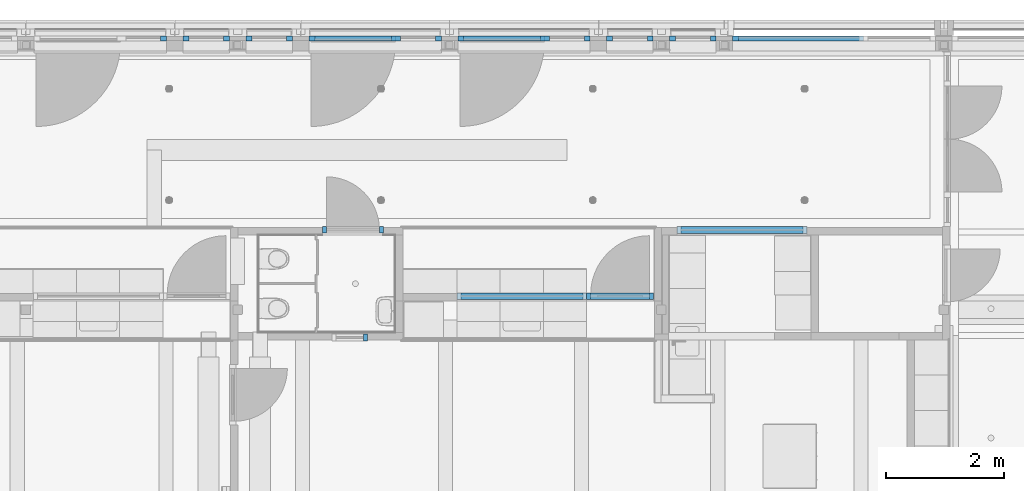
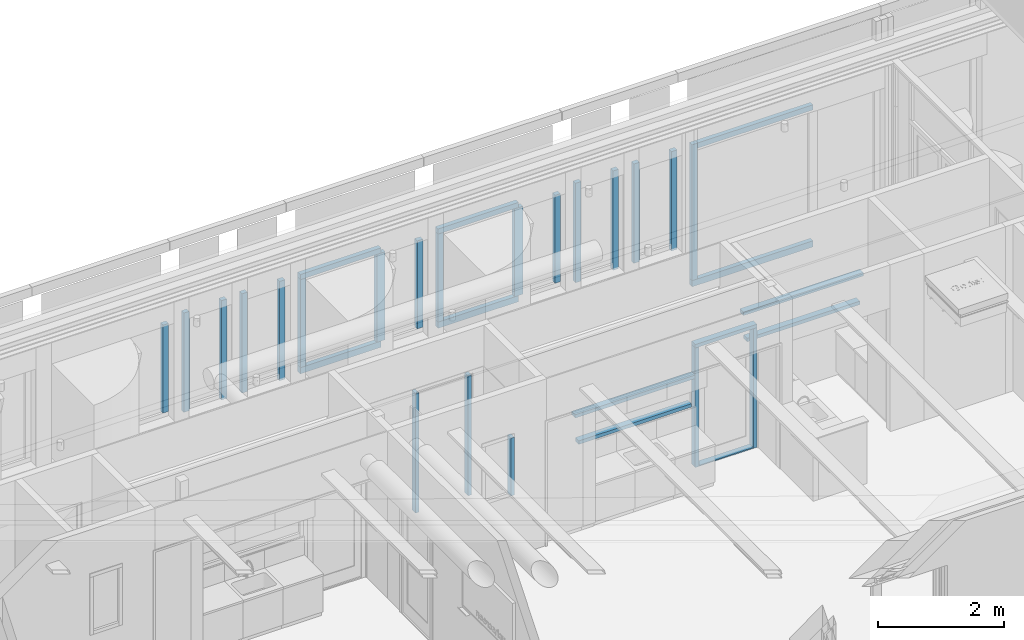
# One storey, part 20 of 128: 33 members, 13 elements without a shape of their own.
"""IFC2X3 building model written with IfcOpenShell, lengths in millimetres."""

from ifc_helpers import new_model, entity, si_unit, converted_unit, derived_unit, direction, frame, frame_2d, origin, origin_2d_with_axis, place, context, subcontext, project, spatial, rectangle, extrude, source, transform, mapped, material, type_object, type_shapes, element, aggregate, save


model = new_model("IFC2X3")

# Units and contexts
model_context = context("Model", 3, precision=0.01, world=origin(), true_north=direction((6.123031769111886e-17, 1.0)))
body_context = subcontext(model_context, "Body", "Model", "MODEL_VIEW")
ifc_project = project(units=[si_unit("LENGTHUNIT", "METRE", prefix="MILLI"), si_unit("AREAUNIT", "SQUARE_METRE"), si_unit("VOLUMEUNIT", "CUBIC_METRE"), converted_unit("PLANEANGLEUNIT", "DEGREE", entity("IfcRatioMeasure", 0.017453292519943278), si_unit("PLANEANGLEUNIT", "RADIAN"), dimensions=[0, 0, 0, 0, 0, 0, 0]), si_unit("MASSUNIT", "GRAM", prefix="KILO"), derived_unit("MASSDENSITYUNIT", [(si_unit("MASSUNIT", "GRAM", prefix="KILO"), 1), (si_unit("LENGTHUNIT", "METRE"), -3)]), derived_unit("IONCONCENTRATIONUNIT", [(si_unit("MASSUNIT", "GRAM", prefix="KILO"), 1), (si_unit("LENGTHUNIT", "METRE"), -3)]), derived_unit("MOMENTOFINERTIAUNIT", [(si_unit("LENGTHUNIT", "METRE"), 4)]), si_unit("TIMEUNIT", "SECOND"), si_unit("FREQUENCYUNIT", "HERTZ"), si_unit("THERMODYNAMICTEMPERATUREUNIT", "DEGREE_CELSIUS"), derived_unit("THERMALTRANSMITTANCEUNIT", [(si_unit("MASSUNIT", "GRAM", prefix="KILO"), 1), (si_unit("THERMODYNAMICTEMPERATUREUNIT", "KELVIN"), -1), (si_unit("TIMEUNIT", "SECOND"), -3)]), derived_unit("THERMALCONDUCTANCEUNIT", [(si_unit("MASSUNIT", "GRAM", prefix="KILO"), 1), (si_unit("THERMODYNAMICTEMPERATUREUNIT", "KELVIN"), -1), (si_unit("TIMEUNIT", "SECOND"), -3), (si_unit("LENGTHUNIT", "METRE"), 1)]), derived_unit("VOLUMETRICFLOWRATEUNIT", [(si_unit("LENGTHUNIT", "METRE"), 3), (si_unit("TIMEUNIT", "SECOND"), -1)]), derived_unit("MASSFLOWRATEUNIT", [(si_unit("MASSUNIT", "GRAM", prefix="KILO"), 1), (si_unit("TIMEUNIT", "SECOND"), -1)]), derived_unit("ROTATIONALFREQUENCYUNIT", [(si_unit("TIMEUNIT", "SECOND"), -1)]), si_unit("ELECTRICCURRENTUNIT", "AMPERE"), si_unit("ELECTRICVOLTAGEUNIT", "VOLT"), si_unit("POWERUNIT", "WATT"), si_unit("FORCEUNIT", "NEWTON", prefix="KILO"), si_unit("ILLUMINANCEUNIT", "LUX"), si_unit("LUMINOUSFLUXUNIT", "LUMEN"), si_unit("LUMINOUSINTENSITYUNIT", "CANDELA"), derived_unit("USERDEFINED", [(si_unit("MASSUNIT", "GRAM", prefix="KILO"), -1), (si_unit("LENGTHUNIT", "METRE"), -2), (si_unit("TIMEUNIT", "SECOND"), 3), (si_unit("LUMINOUSFLUXUNIT", "LUMEN"), 1)]), derived_unit("USERDEFINED", [(si_unit("MASSUNIT", "GRAM", prefix="KILO"), 1), (si_unit("TIMEUNIT", "SECOND"), -3), (si_unit("LENGTHUNIT", "METRE"), 3), (si_unit("ELECTRICCURRENTUNIT", "AMPERE"), -2)]), derived_unit("SOUNDPOWERUNIT", [(si_unit("MASSUNIT", "GRAM", prefix="KILO"), 1), (si_unit("TIMEUNIT", "SECOND"), -3), (si_unit("LENGTHUNIT", "METRE"), 2)]), derived_unit("SOUNDPRESSUREUNIT", [(si_unit("MASSUNIT", "GRAM", prefix="KILO"), 1), (si_unit("LENGTHUNIT", "METRE"), -1), (si_unit("TIMEUNIT", "SECOND"), -2)]), derived_unit("LINEARVELOCITYUNIT", [(si_unit("LENGTHUNIT", "METRE"), 1), (si_unit("TIMEUNIT", "SECOND"), -1)]), si_unit("PRESSUREUNIT", "PASCAL"), derived_unit("USERDEFINED", [(si_unit("MASSUNIT", "GRAM", prefix="KILO"), 1), (si_unit("LENGTHUNIT", "METRE"), -2), (si_unit("TIMEUNIT", "SECOND"), -2)]), derived_unit("LINEARFORCEUNIT", [(si_unit("MASSUNIT", "GRAM", prefix="KILO"), 1), (si_unit("TIMEUNIT", "SECOND"), -2)]), derived_unit("PLANARFORCEUNIT", [(si_unit("MASSUNIT", "GRAM", prefix="KILO"), 1), (si_unit("LENGTHUNIT", "METRE"), -1), (si_unit("TIMEUNIT", "SECOND"), -2)]), derived_unit("SPECIFICHEATCAPACITYUNIT", [(si_unit("THERMODYNAMICTEMPERATUREUNIT", "KELVIN"), -1), (si_unit("LENGTHUNIT", "METRE"), 2), (si_unit("TIMEUNIT", "SECOND"), -2)]), derived_unit("HEATINGVALUEUNIT", [(si_unit("LENGTHUNIT", "METRE"), 2), (si_unit("TIMEUNIT", "SECOND"), -2)]), derived_unit("VAPORPERMEABILITYUNIT", [(si_unit("LENGTHUNIT", "METRE"), -1), (si_unit("TIMEUNIT", "SECOND"), 1)]), derived_unit("DYNAMICVISCOSITYUNIT", [(si_unit("MASSUNIT", "GRAM", prefix="KILO"), 1), (si_unit("TIMEUNIT", "SECOND"), -1), (si_unit("LENGTHUNIT", "METRE"), -1)]), derived_unit("THERMALEXPANSIONCOEFFICIENTUNIT", [(si_unit("THERMODYNAMICTEMPERATUREUNIT", "KELVIN"), -1)]), derived_unit("MODULUSOFELASTICITYUNIT", [(si_unit("MASSUNIT", "GRAM", prefix="KILO"), 1), (si_unit("LENGTHUNIT", "METRE"), -1), (si_unit("TIMEUNIT", "SECOND"), -2)]), derived_unit("ISOTHERMALMOISTURECAPACITYUNIT", [(si_unit("LENGTHUNIT", "METRE"), 3), (si_unit("MASSUNIT", "GRAM", prefix="KILO"), -1)]), derived_unit("MOISTUREDIFFUSIVITYUNIT", [(si_unit("TIMEUNIT", "SECOND"), -1), (si_unit("LENGTHUNIT", "METRE"), 2)])], contexts=[model_context])

# Site, building, storey
site_placement = place(None, frame((0.0, 300.0, 0.0)))
site = spatial("IfcSite", under=ifc_project, at=site_placement, Name="<Kadastrale nummers>", CompositionType="ELEMENT")
building_placement = place(site_placement, origin())
building = spatial("IfcBuilding", under=site, at=building_placement, CompositionType="ELEMENT")
storey_placement = place(building_placement, frame((0.0, 0.0, 3560.0000331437)))
storey = spatial("IfcBuildingStorey", under=building, at=storey_placement, Name="01 eerste verdieping", CompositionType="ELEMENT", Elevation=3560.0000331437)

# Curtain wall, members
curtain_wall_type_1 = type_object("IfcCurtainWallType", Name="Curtain Wall:Merk H09", PredefinedType="NOTDEFINED")
curtain_wall_1_placement = place(storey_placement, frame((0.0, 0.0, -3560.0000331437)))
curtain_wall_1 = element("IfcCurtainWall", 1, at=curtain_wall_1_placement, inside=storey, type_object=curtain_wall_type_1, Name="Curtain Wall:Merk H09", ObjectType="Curtain Wall:Merk H09")
ifc_material_1 = material(Name="ISR_HPL")
member_type_1 = type_object("IfcMemberType", Name="Rectangular Mullion:31_CWM_067x114", PredefinedType="MULLION", material=ifc_material_1)
shared_shape_1 = source(origin(), body_context, "Body", "SweptSolid", [
    extrude(rectangle(XDim=113.99999999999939, YDim=67.0, at=origin_2d_with_axis()), frame((-33.5, -57.0, -2323.0), z_axis=(0.0, 0.0, 1.0), x_axis=(0.0, -1.0, 0.0)), (0.0, 0.0, 1.0), 2323.0),
])
type_shapes(member_type_1, [shared_shape_1])
member_1_placement = place(curtain_wall_1_placement, frame((31665.0, 45476.0, 3650.0000350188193), z_axis=(0.0, 0.0, -1.0), x_axis=(1.0, 0.0, 0.0)))
member_1 = element("IfcMember", 2, at=member_1_placement, type_object=member_type_1, material=ifc_material_1, Name="Rectangular Mullion:31_CWM_067x114", ObjectType="Rectangular Mullion:31_CWM_067x114", context=body_context, shape_type="MappedRepresentation", body=[
    mapped(shared_shape_1, transform((0.0, 0.0, 0.0), scale=1.0)),
])
member_type_2 = type_object("IfcMemberType", Name="Rectangular Mullion:31_CWM_067x114", PredefinedType="MULLION", material=ifc_material_1)
shared_shape_2 = source(origin(), body_context, "Body", "SweptSolid", [
    extrude(rectangle(XDim=113.9999999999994, YDim=67.0, at=frame_2d((1.0658141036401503e-14, 0.0), x_axis=(1.0, 0.0))), frame((-33.5, -57.0, -2323.0), z_axis=(0.0, 0.0, 1.0), x_axis=(0.0, -1.0, 0.0)), (0.0, 0.0, 1.0), 2323.0),
])
type_shapes(member_type_2, [shared_shape_2])
member_2_placement = place(curtain_wall_1_placement, frame((30531.0, 45476.0, 5973.0000331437), z_axis=(0.0, 0.0, 1.0), x_axis=(-1.0, 0.0, 0.0)))
member_2 = element("IfcMember", 3, at=member_2_placement, type_object=member_type_2, material=ifc_material_1, Name="Rectangular Mullion:31_CWM_067x114", ObjectType="Rectangular Mullion:31_CWM_067x114", context=body_context, shape_type="MappedRepresentation", body=[
    mapped(shared_shape_2, transform((0.0, 0.0, 0.0), scale=1.0)),
])

curtain_wall_type_2 = type_object("IfcCurtainWallType", Name="Curtain Wall:Merk H01", PredefinedType="NOTDEFINED")
curtain_wall_2_placement = place(storey_placement, frame((0.0, 0.0, -3560.0000331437)))
curtain_wall_2 = element("IfcCurtainWall", 4, at=curtain_wall_2_placement, inside=storey, type_object=curtain_wall_type_2, Name="Curtain Wall:Merk H01", ObjectType="Curtain Wall:Merk H01")
member_type_3 = type_object("IfcMemberType", Name="Rectangular Mullion:31_CWM_067x114", PredefinedType="MULLION", material=ifc_material_1)
shared_shape_3 = source(origin(), body_context, "Body", "SweptSolid", [
    extrude(rectangle(XDim=113.99999999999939, YDim=67.0, at=origin_2d_with_axis()), frame((-33.5, 57.0, -2323.0), z_axis=(0.0, 0.0, 1.0), x_axis=(0.0, -1.0, 0.0)), (0.0, 0.0, 1.0), 2323.0),
])
type_shapes(member_type_3, [shared_shape_3])
member_3_placement = place(curtain_wall_2_placement, frame((26041.001376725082, 46606.0, 3650.00003501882), z_axis=(0.0, 0.0, -1.0), x_axis=(-1.0, 0.0, 0.0)))
member_3 = element("IfcMember", 5, at=member_3_placement, type_object=member_type_3, material=ifc_material_1, Name="Rectangular Mullion:31_CWM_067x114", ObjectType="Rectangular Mullion:31_CWM_067x114", context=body_context, shape_type="MappedRepresentation", body=[
    mapped(shared_shape_3, transform((0.0, 0.0, 0.0), scale=1.0)),
])
member_type_4 = type_object("IfcMemberType", Name="Rectangular Mullion:31_CWM_067x114", PredefinedType="MULLION", material=ifc_material_1)
shared_shape_4 = source(origin(), body_context, "Body", "SweptSolid", [
    extrude(rectangle(XDim=113.99999999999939, YDim=67.0, at=origin_2d_with_axis()), frame((-33.5, 57.0, -2323.0), z_axis=(0.0, 0.0, 1.0), x_axis=(0.0, -1.0, 0.0)), (0.0, 0.0, 1.0), 2323.0),
])
type_shapes(member_type_4, [shared_shape_4])
member_4_placement = place(curtain_wall_2_placement, frame((27075.001376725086, 46606.0, 5973.0000331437)))
member_4 = element("IfcMember", 6, at=member_4_placement, type_object=member_type_4, material=ifc_material_1, Name="Rectangular Mullion:31_CWM_067x114", ObjectType="Rectangular Mullion:31_CWM_067x114", context=body_context, shape_type="MappedRepresentation", body=[
    mapped(shared_shape_4, transform((0.0, 0.0, 0.0), scale=1.0)),
])
aggregate(curtain_wall_2, [member_3, member_4])

# Member
member_type_5 = type_object("IfcMemberType", Name="Rectangular Mullion:31_CWM_067x114", PredefinedType="MULLION", material=ifc_material_1)
shared_shape_5 = source(origin(), body_context, "Body", "SweptSolid", [
    extrude(rectangle(XDim=113.99999999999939, YDim=67.0, at=origin_2d_with_axis()), frame((-33.5, -57.0, -1134.0), z_axis=(0.0, 0.0, 1.0), x_axis=(0.0, -1.0, 0.0)), (0.0, 0.0, 1.0), 1133.9999999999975),
])
type_shapes(member_type_5, [shared_shape_5])
member_5_placement = place(curtain_wall_1_placement, frame((31665.0, 45476.0, 6040.0000331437), z_axis=(1.0, 0.0, 0.0), x_axis=(0.0, 0.0, 1.0)))
member_5 = element("IfcMember", 7, at=member_5_placement, type_object=member_type_5, material=ifc_material_1, Name="Rectangular Mullion:31_CWM_067x114", ObjectType="Rectangular Mullion:31_CWM_067x114", context=body_context, shape_type="MappedRepresentation", body=[
    mapped(shared_shape_5, transform((0.0, 0.0, 0.0), scale=1.0)),
])

ifc_material_2 = material(Name="ISR_Kunststof_grijs")
member_type_6 = type_object("IfcMemberType", Name="Rectangular Mullion:31_CWM_020x114", PredefinedType="MULLION", material=ifc_material_2)
shared_shape_6 = source(origin(), body_context, "Body", "SweptSolid", [
    extrude(rectangle(XDim=113.9999999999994, YDim=20.0, at=frame_2d((1.0658141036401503e-14, 0.0), x_axis=(1.0, 0.0))), frame((-10.0, -57.0, -1000.0), z_axis=(0.0, 0.0, 1.0), x_axis=(0.0, -1.0, 0.0)), (0.0, 0.0, 1.0), 999.999999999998),
])
type_shapes(member_type_6, [shared_shape_6])
member_6_placement = place(curtain_wall_1_placement, frame((30598.0, 45476.0, 3650.0000350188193), z_axis=(-1.0, 0.0, 0.0), x_axis=(0.0, 0.0, -1.0)))
member_6 = element("IfcMember", 8, at=member_6_placement, type_object=member_type_6, material=ifc_material_2, Name="Rectangular Mullion:31_CWM_020x114", ObjectType="Rectangular Mullion:31_CWM_020x114", context=body_context, shape_type="MappedRepresentation", body=[
    mapped(shared_shape_6, transform((0.0, 0.0, 0.0), scale=1.0)),
])

aggregate(curtain_wall_1, [member_2, member_5, member_6, member_1])

# Curtain wall, member
curtain_wall_type_3 = type_object("IfcCurtainWallType", Name="Curtain Wall:Merk H05", PredefinedType="NOTDEFINED")
curtain_wall_3_placement = place(storey_placement, frame((0.0, 0.0, -3560.0000331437)))
curtain_wall_3 = element("IfcCurtainWall", 9, at=curtain_wall_3_placement, inside=storey, type_object=curtain_wall_type_3, Name="Curtain Wall:Merk H05", ObjectType="Curtain Wall:Merk H05")
member_type_7 = type_object("IfcMemberType", Name="Rectangular Mullion:31_CWM_067x114", PredefinedType="MULLION", material=ifc_material_1)
shared_shape_7 = source(origin(), body_context, "Body", "SweptSolid", [
    extrude(rectangle(XDim=113.9999999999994, YDim=67.0, at=frame_2d((1.0658141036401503e-14, 0.0), x_axis=(1.0, 0.0))), frame((-33.5, -57.0, -1123.0), z_axis=(0.0, 0.0, 1.0), x_axis=(0.0, -1.0, 0.0)), (0.0, 0.0, 1.0), 1123.0000000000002),
])
type_shapes(member_type_7, [shared_shape_7])
member_7_placement = place(curtain_wall_3_placement, frame((26805.0, 44889.0, 5973.0000331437)))
member_7 = element("IfcMember", 10, at=member_7_placement, type_object=member_type_7, material=ifc_material_1, Name="Rectangular Mullion:31_CWM_067x114", ObjectType="Rectangular Mullion:31_CWM_067x114", context=body_context, shape_type="MappedRepresentation", body=[
    mapped(shared_shape_7, transform((0.0, 0.0, 0.0), scale=1.0)),
])
aggregate(curtain_wall_3, [member_7])

curtain_wall_type_4 = type_object("IfcCurtainWallType", Name="Curtain Wall:Merk H13", PredefinedType="NOTDEFINED")
curtain_wall_4_placement = place(storey_placement, frame((0.0, 0.0, -3560.0000331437)))
curtain_wall_4 = element("IfcCurtainWall", 11, at=curtain_wall_4_placement, inside=storey, type_object=curtain_wall_type_4, Name="Curtain Wall:Merk H13", ObjectType="Curtain Wall:Merk H13")
member_type_8 = type_object("IfcMemberType", Name="Rectangular Mullion:31_CWM_067x114", PredefinedType="MULLION", material=ifc_material_1)
shared_shape_8 = source(origin(), body_context, "Body", "SweptSolid", [
    extrude(rectangle(XDim=113.9999999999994, YDim=67.0, at=frame_2d((1.0658141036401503e-14, 0.0), x_axis=(1.0, 0.0))), frame((-33.5, -57.0, -2205.0), z_axis=(0.0, 0.0, 1.0), x_axis=(0.0, -1.0, 0.0)), (0.0, 0.0, 1.0), 2205.0000000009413),
])
type_shapes(member_type_8, [shared_shape_8])
member_8_placement = place(curtain_wall_4_placement, frame((30531.0, 45476.0, 5450.0000331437), z_axis=(1.0, 0.0, 0.0), x_axis=(0.0, 0.0, 1.0)))
member_8 = element("IfcMember", 12, at=member_8_placement, type_object=member_type_8, material=ifc_material_1, Name="Rectangular Mullion:31_CWM_067x114", ObjectType="Rectangular Mullion:31_CWM_067x114", context=body_context, shape_type="MappedRepresentation", body=[
    mapped(shared_shape_8, transform((0.0, 0.0, 0.0), scale=1.0)),
])

curtain_wall_5_placement = place(storey_placement, frame((0.0, 0.0, -3560.0000331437)))
curtain_wall_5 = element("IfcCurtainWall", 13, at=curtain_wall_5_placement, inside=storey, type_object=curtain_wall_type_4, Name="Curtain Wall:Merk H13", ObjectType="Curtain Wall:Merk H13")
member_9_placement = place(curtain_wall_5_placement, frame((34271.00007171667, 46601.0, 5450.0000331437), z_axis=(1.0, 0.0, 0.0), x_axis=(0.0, 0.0, 1.0)))
member_9 = element("IfcMember", 14, at=member_9_placement, type_object=member_type_8, material=ifc_material_1, Name="Rectangular Mullion:31_CWM_067x114", ObjectType="Rectangular Mullion:31_CWM_067x114", context=body_context, shape_type="MappedRepresentation", body=[
    mapped(shared_shape_8, transform((0.0, 0.0, 0.0), scale=1.0)),
])

# Member
member_type_9 = type_object("IfcMemberType", Name="Rectangular Mullion:31_CWM_067x114", PredefinedType="MULLION", material=ifc_material_1)
shared_shape_9 = source(origin(), body_context, "Body", "SweptSolid", [
    extrude(rectangle(XDim=113.9999999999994, YDim=67.0, at=frame_2d((1.0658141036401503e-14, 0.0), x_axis=(1.0, 0.0))), frame((-33.5, -57.0, -2071.0), z_axis=(0.0, 0.0, 1.0), x_axis=(0.0, -1.0, 0.0)), (0.0, 0.0, 1.0), 2071.000000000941),
])
type_shapes(member_type_9, [shared_shape_9])
member_10_placement = place(curtain_wall_4_placement, frame((28393.0, 45476.0, 4850.0000331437), z_axis=(-1.0, 0.0, 0.0), x_axis=(0.0, 0.0, -1.0)))
member_10 = element("IfcMember", 15, at=member_10_placement, type_object=member_type_9, material=ifc_material_1, Name="Rectangular Mullion:31_CWM_067x114", ObjectType="Rectangular Mullion:31_CWM_067x114", context=body_context, shape_type="MappedRepresentation", body=[
    mapped(shared_shape_9, transform((0.0, 0.0, 0.0), scale=1.0)),
])

aggregate(curtain_wall_4, [member_8, member_10])

member_11_placement = place(curtain_wall_5_placement, frame((32133.00007171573, 46601.0, 4850.0000331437), z_axis=(-1.0, 0.0, 0.0), x_axis=(0.0, 0.0, -1.0)))
member_11 = element("IfcMember", 16, at=member_11_placement, type_object=member_type_9, material=ifc_material_1, Name="Rectangular Mullion:31_CWM_067x114", ObjectType="Rectangular Mullion:31_CWM_067x114", context=body_context, shape_type="MappedRepresentation", body=[
    mapped(shared_shape_9, transform((0.0, 0.0, 0.0), scale=1.0)),
])

aggregate(curtain_wall_5, [member_9, member_11])

# Curtain wall, member
curtain_wall_type_5 = type_object("IfcCurtainWallType", Name="Curtain Wall:K_29", PredefinedType="NOTDEFINED")
curtain_wall_6_placement = place(storey_placement, frame((0.0, 0.0, -3560.0000331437)))
curtain_wall_6 = element("IfcCurtainWall", 17, at=curtain_wall_6_placement, inside=storey, type_object=curtain_wall_type_5, Name="Curtain Wall:K_29", ObjectType="Curtain Wall:K_29")
ifc_material_3 = material(Name="ISR_Kunststof_RAL7006")
member_type_10 = type_object("IfcMemberType", Name="Rectangular Mullion:100x83 Gealan Kubus", PredefinedType="MULLION", material=ifc_material_3)
shared_shape_10 = source(origin(), body_context, "Body", "SweptSolid", [
    extrude(rectangle(XDim=83.0, YDim=100.0, at=origin_2d_with_axis()), frame((-50.0, 41.5, -1929.9999649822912), z_axis=(0.0, 0.0, 1.0), x_axis=(0.0, -1.0, 0.0)), (0.0, 0.0, 1.0), 1929.9999649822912),
])
type_shapes(member_type_10, [shared_shape_10])
member_12_placement = place(curtain_wall_6_placement, frame((31940.0, 49868.0, 4460.000035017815), z_axis=(0.0, 0.0, -1.0), x_axis=(-1.0, 0.0, 0.0)))
member_12 = element("IfcMember", 18, at=member_12_placement, type_object=member_type_10, material=ifc_material_3, Name="Rectangular Mullion:100x83 Gealan Kubus", ObjectType="Rectangular Mullion:100x83 Gealan Kubus", context=body_context, shape_type="MappedRepresentation", body=[
    mapped(shared_shape_10, transform((0.0, 0.0, 0.0), scale=1.0)),
])

curtain_wall_7_placement = place(storey_placement, frame((0.0, 0.0, -3560.0000331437)))
curtain_wall_7 = element("IfcCurtainWall", 19, at=curtain_wall_7_placement, inside=storey, type_object=curtain_wall_type_5, Name="Curtain Wall:K_29", ObjectType="Curtain Wall:K_29")
member_13_placement = place(curtain_wall_7_placement, frame((30870.0, 49868.0, 4460.000035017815), z_axis=(0.0, 0.0, -1.0), x_axis=(-1.0, 0.0, 0.0)))
member_13 = element("IfcMember", 20, at=member_13_placement, type_object=member_type_10, material=ifc_material_3, Name="Rectangular Mullion:100x83 Gealan Kubus", ObjectType="Rectangular Mullion:100x83 Gealan Kubus", context=body_context, shape_type="MappedRepresentation", body=[
    mapped(shared_shape_10, transform((0.0, 0.0, 0.0), scale=1.0)),
])

curtain_wall_8_placement = place(storey_placement, frame((0.0, 0.0, -3560.0000331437)))
curtain_wall_8 = element("IfcCurtainWall", 21, at=curtain_wall_8_placement, inside=storey, type_object=curtain_wall_type_5, Name="Curtain Wall:K_29", ObjectType="Curtain Wall:K_29")
member_14_placement = place(curtain_wall_8_placement, frame((24740.0, 49868.0, 4460.000035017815), z_axis=(0.0, 0.0, -1.0), x_axis=(-1.0, 0.0, 0.0)))
member_14 = element("IfcMember", 22, at=member_14_placement, type_object=member_type_10, material=ifc_material_3, Name="Rectangular Mullion:100x83 Gealan Kubus", ObjectType="Rectangular Mullion:100x83 Gealan Kubus", context=body_context, shape_type="MappedRepresentation", body=[
    mapped(shared_shape_10, transform((0.0, 0.0, 0.0), scale=1.0)),
])

curtain_wall_9_placement = place(storey_placement, frame((0.0, 0.0, -3560.0000331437)))
curtain_wall_9 = element("IfcCurtainWall", 23, at=curtain_wall_9_placement, inside=storey, type_object=curtain_wall_type_5, Name="Curtain Wall:K_29", ObjectType="Curtain Wall:K_29")
member_15_placement = place(curtain_wall_9_placement, frame((23670.0, 49868.0, 4460.000035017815), z_axis=(0.0, 0.0, -1.0), x_axis=(-1.0, 0.0, 0.0)))
member_15 = element("IfcMember", 24, at=member_15_placement, type_object=member_type_10, material=ifc_material_3, Name="Rectangular Mullion:100x83 Gealan Kubus", ObjectType="Rectangular Mullion:100x83 Gealan Kubus", context=body_context, shape_type="MappedRepresentation", body=[
    mapped(shared_shape_10, transform((0.0, 0.0, 0.0), scale=1.0)),
])

# Member
member_type_11 = type_object("IfcMemberType", Name="Rectangular Mullion:100x83 Gealan Kubus", PredefinedType="MULLION", material=ifc_material_3)
shared_shape_11 = source(origin(), body_context, "Body", "SweptSolid", [
    extrude(rectangle(XDim=83.0, YDim=100.0, at=origin_2d_with_axis()), frame((-50.0, 41.5, -1929.9999649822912), z_axis=(0.0, 0.0, 1.0), x_axis=(0.0, -1.0, 0.0)), (0.0, 0.0, 1.0), 1929.9999649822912),
])
type_shapes(member_type_11, [shared_shape_11])
member_16_placement = place(curtain_wall_6_placement, frame((32730.0, 49868.0, 6390.0)))
member_16 = element("IfcMember", 25, at=member_16_placement, type_object=member_type_11, material=ifc_material_3, Name="Rectangular Mullion:100x83 Gealan Kubus", ObjectType="Rectangular Mullion:100x83 Gealan Kubus", context=body_context, shape_type="MappedRepresentation", body=[
    mapped(shared_shape_11, transform((0.0, 0.0, 0.0), scale=1.0)),
])

aggregate(curtain_wall_6, [member_12, member_16])

member_17_placement = place(curtain_wall_7_placement, frame((31660.0, 49868.0, 6390.0)))
member_17 = element("IfcMember", 26, at=member_17_placement, type_object=member_type_11, material=ifc_material_3, Name="Rectangular Mullion:100x83 Gealan Kubus", ObjectType="Rectangular Mullion:100x83 Gealan Kubus", context=body_context, shape_type="MappedRepresentation", body=[
    mapped(shared_shape_11, transform((0.0, 0.0, 0.0), scale=1.0)),
])

aggregate(curtain_wall_7, [member_13, member_17])

member_18_placement = place(curtain_wall_8_placement, frame((25530.0, 49868.0, 6390.0)))
member_18 = element("IfcMember", 27, at=member_18_placement, type_object=member_type_11, material=ifc_material_3, Name="Rectangular Mullion:100x83 Gealan Kubus", ObjectType="Rectangular Mullion:100x83 Gealan Kubus", context=body_context, shape_type="MappedRepresentation", body=[
    mapped(shared_shape_11, transform((0.0, 0.0, 0.0), scale=1.0)),
])

aggregate(curtain_wall_8, [member_14, member_18])

member_19_placement = place(curtain_wall_9_placement, frame((24460.0, 49868.0, 6390.0)))
member_19 = element("IfcMember", 28, at=member_19_placement, type_object=member_type_11, material=ifc_material_3, Name="Rectangular Mullion:100x83 Gealan Kubus", ObjectType="Rectangular Mullion:100x83 Gealan Kubus", context=body_context, shape_type="MappedRepresentation", body=[
    mapped(shared_shape_11, transform((0.0, 0.0, 0.0), scale=1.0)),
])

aggregate(curtain_wall_9, [member_15, member_19])

# Curtain wall, member
curtain_wall_type_6 = type_object("IfcCurtainWallType", Name="Curtain Wall:K_22", PredefinedType="NOTDEFINED")
curtain_wall_10_placement = place(storey_placement, frame((0.0, 0.0, -3560.0000331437)))
curtain_wall_10 = element("IfcCurtainWall", 29, at=curtain_wall_10_placement, inside=storey, type_object=curtain_wall_type_6, Name="Curtain Wall:K_22", ObjectType="Curtain Wall:K_22")
member_type_12 = type_object("IfcMemberType", Name="Rectangular Mullion:100x83 Gealan Kubus", PredefinedType="MULLION", material=ifc_material_3)
shared_shape_12 = source(origin(), body_context, "Body", "SweptSolid", [
    extrude(rectangle(XDim=83.0, YDim=100.0, at=origin_2d_with_axis()), frame((-50.0, 41.5, -1483.0), z_axis=(0.0, 0.0, 1.0), x_axis=(0.0, -1.0, 0.0)), (0.0, 0.0, 1.0), 1483.0000000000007),
])
type_shapes(member_type_12, [shared_shape_12])
member_20_placement = place(curtain_wall_10_placement, frame((28340.0, 49868.0, 6390.0), z_axis=(-1.0, 0.0, 0.0), x_axis=(0.0, 0.0, 1.0)))
member_20 = element("IfcMember", 30, at=member_20_placement, type_object=member_type_12, material=ifc_material_3, Name="Rectangular Mullion:100x83 Gealan Kubus", ObjectType="Rectangular Mullion:100x83 Gealan Kubus", context=body_context, shape_type="MappedRepresentation", body=[
    mapped(shared_shape_12, transform((0.0, 0.0, 0.0), scale=1.0)),
])

curtain_wall_11_placement = place(storey_placement, frame((0.0, 0.0, -3560.0000331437)))
curtain_wall_11 = element("IfcCurtainWall", 31, at=curtain_wall_11_placement, inside=storey, type_object=curtain_wall_type_6, Name="Curtain Wall:K_22", ObjectType="Curtain Wall:K_22")
member_21_placement = place(curtain_wall_11_placement, frame((25810.0, 49868.0, 6390.0), z_axis=(-1.0, 0.0, 0.0), x_axis=(0.0, 0.0, 1.0)))
member_21 = element("IfcMember", 32, at=member_21_placement, type_object=member_type_12, material=ifc_material_3, Name="Rectangular Mullion:100x83 Gealan Kubus", ObjectType="Rectangular Mullion:100x83 Gealan Kubus", context=body_context, shape_type="MappedRepresentation", body=[
    mapped(shared_shape_12, transform((0.0, 0.0, 0.0), scale=1.0)),
])

# Member
member_type_13 = type_object("IfcMemberType", Name="Rectangular Mullion:100x83 Gealan Kubus", PredefinedType="MULLION", material=ifc_material_3)
shared_shape_13 = source(origin(), body_context, "Body", "SweptSolid", [
    extrude(rectangle(XDim=82.99999999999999, YDim=100.0, at=origin_2d_with_axis()), frame((-50.0, 41.49999999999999, -1709.9999649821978), z_axis=(0.0, 0.0, 1.0), x_axis=(0.0, -1.0, 0.0)), (0.0, 0.0, 1.0), 1709.9999649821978),
])
type_shapes(member_type_13, [shared_shape_13])
member_22_placement = place(curtain_wall_10_placement, frame((28340.0, 49868.0, 4580.0000331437), z_axis=(0.0, 0.0, -1.0), x_axis=(-1.0, 0.0, 0.0)))
member_22 = element("IfcMember", 33, at=member_22_placement, type_object=member_type_13, material=ifc_material_3, Name="Rectangular Mullion:100x83 Gealan Kubus", ObjectType="Rectangular Mullion:100x83 Gealan Kubus", context=body_context, shape_type="MappedRepresentation", body=[
    mapped(shared_shape_13, transform((0.0, 0.0, 0.0), scale=1.0)),
])

member_23_placement = place(curtain_wall_11_placement, frame((25810.0, 49868.0, 4580.0000331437), z_axis=(0.0, 0.0, -1.0), x_axis=(-1.0, 0.0, 0.0)))
member_23 = element("IfcMember", 34, at=member_23_placement, type_object=member_type_13, material=ifc_material_3, Name="Rectangular Mullion:100x83 Gealan Kubus", ObjectType="Rectangular Mullion:100x83 Gealan Kubus", context=body_context, shape_type="MappedRepresentation", body=[
    mapped(shared_shape_13, transform((0.0, 0.0, 0.0), scale=1.0)),
])

member_type_14 = type_object("IfcMemberType", Name="Rectangular Mullion:100x83 Gealan Kubus", PredefinedType="MULLION", material=ifc_material_3)
shared_shape_14 = source(origin(), body_context, "Body", "SweptSolid", [
    extrude(rectangle(XDim=83.00000000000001, YDim=100.0, at=origin_2d_with_axis()), frame((-50.0, 41.50000000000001, -1709.9999649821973), z_axis=(0.0, 0.0, 1.0), x_axis=(0.0, -1.0, 0.0)), (0.0, 0.0, 1.0), 1709.9999649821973),
])
type_shapes(member_type_14, [shared_shape_14])
member_24_placement = place(curtain_wall_10_placement, frame((30590.0, 49868.0, 6290.0)))
member_24 = element("IfcMember", 35, at=member_24_placement, type_object=member_type_14, material=ifc_material_3, Name="Rectangular Mullion:100x83 Gealan Kubus", ObjectType="Rectangular Mullion:100x83 Gealan Kubus", context=body_context, shape_type="MappedRepresentation", body=[
    mapped(shared_shape_14, transform((0.0, 0.0, 0.0), scale=1.0)),
])

member_25_placement = place(curtain_wall_11_placement, frame((28060.0, 49868.0, 6290.0)))
member_25 = element("IfcMember", 36, at=member_25_placement, type_object=member_type_14, material=ifc_material_3, Name="Rectangular Mullion:100x83 Gealan Kubus", ObjectType="Rectangular Mullion:100x83 Gealan Kubus", context=body_context, shape_type="MappedRepresentation", body=[
    mapped(shared_shape_14, transform((0.0, 0.0, 0.0), scale=1.0)),
])

# Curtain wall, member
curtain_wall_12_placement = place(storey_placement, frame((0.0, 0.0, -3560.0000331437)))
curtain_wall_12 = element("IfcCurtainWall", 37, at=curtain_wall_12_placement, inside=storey, type_object=curtain_wall_type_6, Name="Curtain Wall:K_22", ObjectType="Curtain Wall:K_22")
member_26_placement = place(curtain_wall_12_placement, frame((23390.0, 49868.0, 6290.0)))
member_26 = element("IfcMember", 38, at=member_26_placement, type_object=member_type_14, material=ifc_material_3, Name="Rectangular Mullion:100x83 Gealan Kubus", ObjectType="Rectangular Mullion:100x83 Gealan Kubus", context=body_context, shape_type="MappedRepresentation", body=[
    mapped(shared_shape_14, transform((0.0, 0.0, 0.0), scale=1.0)),
])
aggregate(curtain_wall_12, [member_26])

# Member
member_type_15 = type_object("IfcMemberType", Name="Rectangular Mullion:120x83 Gealan Kubus", PredefinedType="MULLION", material=ifc_material_3)
shared_shape_15 = source(origin(), body_context, "Body", "SweptSolid", [
    extrude(rectangle(XDim=83.00000000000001, YDim=120.0, at=origin_2d_with_axis()), frame((-60.0, 41.50000000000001, -1483.0), z_axis=(0.0, 0.0, 1.0), x_axis=(0.0, -1.0, 0.0)), (0.0, 0.0, 1.0), 1483.0000000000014),
])
type_shapes(member_type_15, [shared_shape_15])
member_27_placement = place(curtain_wall_10_placement, frame((29823.0, 49868.0, 4460.000035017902), z_axis=(1.0, 0.0, 0.0), x_axis=(0.0, 0.0, -1.0)))
member_27 = element("IfcMember", 39, at=member_27_placement, type_object=member_type_15, material=ifc_material_3, Name="Rectangular Mullion:120x83 Gealan Kubus", ObjectType="Rectangular Mullion:120x83 Gealan Kubus", context=body_context, shape_type="MappedRepresentation", body=[
    mapped(shared_shape_15, transform((0.0, 0.0, 0.0), scale=1.0)),
])

member_28_placement = place(curtain_wall_11_placement, frame((27293.0, 49868.0, 4460.000035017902), z_axis=(1.0, 0.0, 0.0), x_axis=(0.0, 0.0, -1.0)))
member_28 = element("IfcMember", 40, at=member_28_placement, type_object=member_type_15, material=ifc_material_3, Name="Rectangular Mullion:120x83 Gealan Kubus", ObjectType="Rectangular Mullion:120x83 Gealan Kubus", context=body_context, shape_type="MappedRepresentation", body=[
    mapped(shared_shape_15, transform((0.0, 0.0, 0.0), scale=1.0)),
])

member_type_16 = type_object("IfcMemberType", Name="Rectangular Mullion:154x83 Gealan Kubus", PredefinedType="MULLION", material=ifc_material_3)
shared_shape_16 = source(origin(), body_context, "Body", "SweptSolid", [
    extrude(rectangle(XDim=83.00000000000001, YDim=154.0, at=origin_2d_with_axis()), frame((0.0, 41.50000000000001, -1710.0), z_axis=(0.0, 0.0, 1.0), x_axis=(0.0, -1.0, 0.0)), (0.0, 0.0, 1.0), 1710.0000000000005),
])
type_shapes(member_type_16, [shared_shape_16])
member_29_placement = place(curtain_wall_10_placement, frame((29823.0, 49868.0, 4580.0000331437), z_axis=(0.0, 0.0, -1.0), x_axis=(-1.0, 0.0, 0.0)))
member_29 = element("IfcMember", 41, at=member_29_placement, type_object=member_type_16, material=ifc_material_3, Name="Rectangular Mullion:154x83 Gealan Kubus", ObjectType="Rectangular Mullion:154x83 Gealan Kubus", context=body_context, shape_type="MappedRepresentation", body=[
    mapped(shared_shape_16, transform((0.0, 0.0, 0.0), scale=1.0)),
])

aggregate(curtain_wall_10, [member_20, member_22, member_24, member_27, member_29])

member_30_placement = place(curtain_wall_11_placement, frame((27293.0, 49868.0, 4580.0000331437), z_axis=(0.0, 0.0, -1.0), x_axis=(-1.0, 0.0, 0.0)))
member_30 = element("IfcMember", 42, at=member_30_placement, type_object=member_type_16, material=ifc_material_3, Name="Rectangular Mullion:154x83 Gealan Kubus", ObjectType="Rectangular Mullion:154x83 Gealan Kubus", context=body_context, shape_type="MappedRepresentation", body=[
    mapped(shared_shape_16, transform((0.0, 0.0, 0.0), scale=1.0)),
])

aggregate(curtain_wall_11, [member_21, member_23, member_25, member_28, member_30])

# Curtain wall, members
curtain_wall_type_7 = type_object("IfcCurtainWallType", Name="Curtain Wall:K_27", PredefinedType="NOTDEFINED")
curtain_wall_13_placement = place(storey_placement, frame((0.0, 0.0, -3560.0000331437)))
curtain_wall_13 = element("IfcCurtainWall", 43, at=curtain_wall_13_placement, inside=storey, type_object=curtain_wall_type_7, Name="Curtain Wall:K_27", ObjectType="Curtain Wall:K_27")
member_type_17 = type_object("IfcMemberType", Name="Rectangular Mullion:100x83 Gealan Kubus", PredefinedType="MULLION", material=ifc_material_3)
shared_shape_17 = source(origin(), body_context, "Body", "SweptSolid", [
    extrude(rectangle(XDim=83.0, YDim=100.0, at=origin_2d_with_axis()), frame((-50.0, 41.5, -2122.0), z_axis=(0.0, 0.0, 1.0), x_axis=(0.0, -1.0, 0.0)), (0.0, 0.0, 1.0), 2122.000000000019),
])
type_shapes(member_type_17, [shared_shape_17])
member_31_placement = place(curtain_wall_13_placement, frame((33110.0, 49868.0, 6390.0), z_axis=(-1.0, 0.0, 0.0), x_axis=(0.0, 0.0, 1.0)))
member_31 = element("IfcMember", 44, at=member_31_placement, type_object=member_type_17, material=ifc_material_3, Name="Rectangular Mullion:100x83 Gealan Kubus", ObjectType="Rectangular Mullion:100x83 Gealan Kubus", context=body_context, shape_type="MappedRepresentation", body=[
    mapped(shared_shape_17, transform((0.0, 0.0, 0.0), scale=1.0)),
])
member_type_18 = type_object("IfcMemberType", Name="Rectangular Mullion:100x83 Gealan Kubus", PredefinedType="MULLION", material=ifc_material_3)
shared_shape_18 = source(origin(), body_context, "Body", "SweptSolid", [
    extrude(rectangle(XDim=83.0, YDim=100.0, at=origin_2d_with_axis()), frame((-50.0, 41.5, -2639.9999649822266), z_axis=(0.0, 0.0, 1.0), x_axis=(0.0, -1.0, 0.0)), (0.0, 0.0, 1.0), 2639.9999649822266),
])
type_shapes(member_type_18, [shared_shape_18])
member_32_placement = place(curtain_wall_13_placement, frame((33010.0, 49868.0, 3750.000035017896), z_axis=(0.0, 0.0, -1.0), x_axis=(-1.0, 0.0, 0.0)))
member_32 = element("IfcMember", 45, at=member_32_placement, type_object=member_type_18, material=ifc_material_3, Name="Rectangular Mullion:100x83 Gealan Kubus", ObjectType="Rectangular Mullion:100x83 Gealan Kubus", context=body_context, shape_type="MappedRepresentation", body=[
    mapped(shared_shape_18, transform((0.0, 0.0, 0.0), scale=1.0)),
])
member_type_19 = type_object("IfcMemberType", Name="Rectangular Mullion:120x83 Gealan Kubus", PredefinedType="MULLION", material=ifc_material_3)
shared_shape_19 = source(origin(), body_context, "Body", "SweptSolid", [
    extrude(rectangle(XDim=83.00000000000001, YDim=120.0, at=origin_2d_with_axis()), frame((-60.0, 41.50000000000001, -2222.0), z_axis=(0.0, 0.0, 1.0), x_axis=(0.0, -1.0, 0.0)), (0.0, 0.0, 1.0), 2222.000000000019),
])
type_shapes(member_type_19, [shared_shape_19])
member_33_placement = place(curtain_wall_13_placement, frame((35232.0, 49868.0, 3630.0000350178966), z_axis=(1.0, 0.0, 0.0), x_axis=(0.0, 0.0, -1.0)))
member_33 = element("IfcMember", 46, at=member_33_placement, type_object=member_type_19, material=ifc_material_3, Name="Rectangular Mullion:120x83 Gealan Kubus", ObjectType="Rectangular Mullion:120x83 Gealan Kubus", context=body_context, shape_type="MappedRepresentation", body=[
    mapped(shared_shape_19, transform((0.0, 0.0, 0.0), scale=1.0)),
])
aggregate(curtain_wall_13, [member_31, member_32, member_33])

save(model, "model.ifc")
